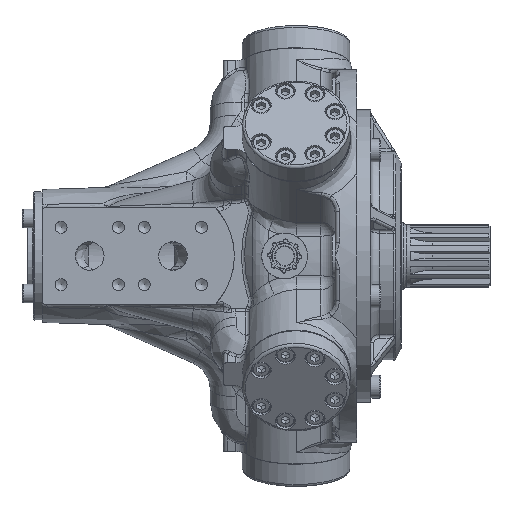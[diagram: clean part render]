
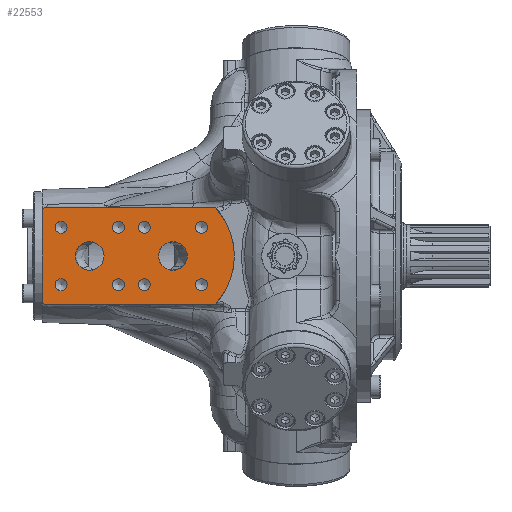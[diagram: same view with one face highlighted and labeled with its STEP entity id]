
A CAD part, front view. The second image highlights one B-rep face of the part: STEP entity #22553.
In plain terms, the highlighted planar face has unit normal (0, -1, 0).
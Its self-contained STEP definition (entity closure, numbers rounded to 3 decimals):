
#1105=FACE_BOUND('',#3309,.T.);
#1106=FACE_BOUND('',#3310,.T.);
#1107=FACE_BOUND('',#3311,.T.);
#1108=FACE_BOUND('',#3312,.T.);
#1109=FACE_BOUND('',#3313,.T.);
#1110=FACE_BOUND('',#3314,.T.);
#1111=FACE_BOUND('',#3315,.T.);
#1112=FACE_BOUND('',#3316,.T.);
#1113=FACE_BOUND('',#3317,.T.);
#1114=FACE_BOUND('',#3318,.T.);
#1250=PLANE('',#24583);
#1753=FACE_OUTER_BOUND('',#3308,.T.);
#3308=EDGE_LOOP('',(#15998,#15999,#16000,#16001,#16002,#16003));
#3309=EDGE_LOOP('',(#16004));
#3310=EDGE_LOOP('',(#16005));
#3311=EDGE_LOOP('',(#16006));
#3312=EDGE_LOOP('',(#16007));
#3313=EDGE_LOOP('',(#16008));
#3314=EDGE_LOOP('',(#16009));
#3315=EDGE_LOOP('',(#16010));
#3316=EDGE_LOOP('',(#16011));
#3317=EDGE_LOOP('',(#16012));
#3318=EDGE_LOOP('',(#16013));
#4900=CIRCLE('',#24551,4.188);
#4902=CIRCLE('',#24555,4.188);
#4904=CIRCLE('',#24559,4.188);
#4906=CIRCLE('',#24563,4.188);
#4908=CIRCLE('',#24567,4.188);
#4910=CIRCLE('',#24571,4.188);
#4912=CIRCLE('',#24575,4.188);
#4914=CIRCLE('',#24579,4.188);
#4915=CIRCLE('',#24581,50.);
#4917=CIRCLE('',#24584,2.998);
#4918=CIRCLE('',#24585,2.998);
#4919=CIRCLE('',#24586,10.);
#4920=CIRCLE('',#24587,10.);
#6326=LINE('',#36487,#7382);
#6327=LINE('',#36491,#7383);
#6328=LINE('',#36494,#7384);
#7382=VECTOR('',#27964,10.);
#7383=VECTOR('',#27967,10.);
#7384=VECTOR('',#27970,10.);
#9622=VERTEX_POINT('',#36380);
#9625=VERTEX_POINT('',#36389);
#9628=VERTEX_POINT('',#36398);
#9631=VERTEX_POINT('',#36407);
#9634=VERTEX_POINT('',#36416);
#9637=VERTEX_POINT('',#36425);
#9640=VERTEX_POINT('',#36434);
#9643=VERTEX_POINT('',#36443);
#9644=VERTEX_POINT('',#36447);
#9646=VERTEX_POINT('',#36453);
#9650=VERTEX_POINT('',#36486);
#9651=VERTEX_POINT('',#36488);
#9652=VERTEX_POINT('',#36490);
#9653=VERTEX_POINT('',#36492);
#9654=VERTEX_POINT('',#36495);
#9655=VERTEX_POINT('',#36497);
#11966=EDGE_CURVE('',#9622,#9622,#4900,.T.);
#11970=EDGE_CURVE('',#9625,#9625,#4902,.T.);
#11974=EDGE_CURVE('',#9628,#9628,#4904,.T.);
#11978=EDGE_CURVE('',#9631,#9631,#4906,.T.);
#11982=EDGE_CURVE('',#9634,#9634,#4908,.T.);
#11986=EDGE_CURVE('',#9637,#9637,#4910,.T.);
#11990=EDGE_CURVE('',#9640,#9640,#4912,.T.);
#11994=EDGE_CURVE('',#9643,#9643,#4914,.T.);
#11997=EDGE_CURVE('',#9646,#9644,#4915,.T.);
#12002=EDGE_CURVE('',#9650,#9644,#6326,.T.);
#12003=EDGE_CURVE('',#9651,#9650,#4917,.T.);
#12004=EDGE_CURVE('',#9652,#9651,#6327,.T.);
#12005=EDGE_CURVE('',#9653,#9652,#4918,.T.);
#12006=EDGE_CURVE('',#9646,#9653,#6328,.T.);
#12007=EDGE_CURVE('',#9654,#9654,#4919,.T.);
#12008=EDGE_CURVE('',#9655,#9655,#4920,.T.);
#15998=ORIENTED_EDGE('',*,*,#12002,.F.);
#15999=ORIENTED_EDGE('',*,*,#12003,.F.);
#16000=ORIENTED_EDGE('',*,*,#12004,.F.);
#16001=ORIENTED_EDGE('',*,*,#12005,.F.);
#16002=ORIENTED_EDGE('',*,*,#12006,.F.);
#16003=ORIENTED_EDGE('',*,*,#11997,.T.);
#16004=ORIENTED_EDGE('',*,*,#11966,.T.);
#16005=ORIENTED_EDGE('',*,*,#11970,.T.);
#16006=ORIENTED_EDGE('',*,*,#11974,.T.);
#16007=ORIENTED_EDGE('',*,*,#11978,.T.);
#16008=ORIENTED_EDGE('',*,*,#11982,.T.);
#16009=ORIENTED_EDGE('',*,*,#11986,.T.);
#16010=ORIENTED_EDGE('',*,*,#11990,.T.);
#16011=ORIENTED_EDGE('',*,*,#11994,.T.);
#16012=ORIENTED_EDGE('',*,*,#12007,.F.);
#16013=ORIENTED_EDGE('',*,*,#12008,.F.);
#22553=ADVANCED_FACE('',(#1753,#1105,#1106,#1107,#1108,#1109,#1110,#1111,
#1112,#1113,#1114),#1250,.F.);
#24551=AXIS2_PLACEMENT_3D('',#36381,#27883,#27884);
#24555=AXIS2_PLACEMENT_3D('',#36390,#27893,#27894);
#24559=AXIS2_PLACEMENT_3D('',#36399,#27903,#27904);
#24563=AXIS2_PLACEMENT_3D('',#36408,#27913,#27914);
#24567=AXIS2_PLACEMENT_3D('',#36417,#27923,#27924);
#24571=AXIS2_PLACEMENT_3D('',#36426,#27933,#27934);
#24575=AXIS2_PLACEMENT_3D('',#36435,#27943,#27944);
#24579=AXIS2_PLACEMENT_3D('',#36444,#27953,#27954);
#24581=AXIS2_PLACEMENT_3D('',#36454,#27958,#27959);
#24583=AXIS2_PLACEMENT_3D('',#36485,#27962,#27963);
#24584=AXIS2_PLACEMENT_3D('',#36489,#27965,#27966);
#24585=AXIS2_PLACEMENT_3D('',#36493,#27968,#27969);
#24586=AXIS2_PLACEMENT_3D('',#36496,#27971,#27972);
#24587=AXIS2_PLACEMENT_3D('',#36498,#27973,#27974);
#27883=DIRECTION('center_axis',(0.,1.,0.));
#27884=DIRECTION('ref_axis',(1.,0.,0.));
#27893=DIRECTION('center_axis',(0.,1.,0.));
#27894=DIRECTION('ref_axis',(1.,0.,0.));
#27903=DIRECTION('center_axis',(0.,1.,0.));
#27904=DIRECTION('ref_axis',(1.,0.,0.));
#27913=DIRECTION('center_axis',(0.,1.,0.));
#27914=DIRECTION('ref_axis',(1.,0.,0.));
#27923=DIRECTION('center_axis',(0.,1.,0.));
#27924=DIRECTION('ref_axis',(1.,0.,0.));
#27933=DIRECTION('center_axis',(0.,1.,0.));
#27934=DIRECTION('ref_axis',(1.,0.,0.));
#27943=DIRECTION('center_axis',(0.,1.,0.));
#27944=DIRECTION('ref_axis',(1.,0.,0.));
#27953=DIRECTION('center_axis',(0.,1.,0.));
#27954=DIRECTION('ref_axis',(1.,0.,0.));
#27958=DIRECTION('center_axis',(0.,-1.,0.));
#27959=DIRECTION('ref_axis',(-0.733,0.,-0.68));
#27962=DIRECTION('center_axis',(0.,1.,0.));
#27963=DIRECTION('ref_axis',(0.,0.,1.));
#27964=DIRECTION('',(1.,0.,0.));
#27965=DIRECTION('center_axis',(0.,1.,0.));
#27966=DIRECTION('ref_axis',(0.,0.,-1.));
#27967=DIRECTION('',(0.,0.,1.));
#27968=DIRECTION('center_axis',(0.,1.,0.));
#27969=DIRECTION('ref_axis',(0.,0.,-1.));
#27970=DIRECTION('',(-1.,0.,0.));
#27971=DIRECTION('center_axis',(0.,-1.,0.));
#27972=DIRECTION('ref_axis',(-1.,0.,0.));
#27973=DIRECTION('center_axis',(0.,-1.,0.));
#27974=DIRECTION('ref_axis',(-1.,0.,0.));
#36380=CARTESIAN_POINT('',(-110.188,-80.1,-20.));
#36381=CARTESIAN_POINT('Origin',(-106.,-80.1,-20.));
#36389=CARTESIAN_POINT('',(-70.188,-80.1,-20.));
#36390=CARTESIAN_POINT('Origin',(-66.,-80.1,-20.));
#36398=CARTESIAN_POINT('',(-70.188,-80.1,20.));
#36399=CARTESIAN_POINT('Origin',(-66.,-80.1,20.));
#36407=CARTESIAN_POINT('',(-110.188,-80.1,20.));
#36408=CARTESIAN_POINT('Origin',(-106.,-80.1,20.));
#36416=CARTESIAN_POINT('',(-168.188,-80.1,-20.));
#36417=CARTESIAN_POINT('Origin',(-164.,-80.1,-20.));
#36425=CARTESIAN_POINT('',(-128.188,-80.1,-20.));
#36426=CARTESIAN_POINT('Origin',(-124.,-80.1,-20.));
#36434=CARTESIAN_POINT('',(-128.188,-80.1,20.));
#36435=CARTESIAN_POINT('Origin',(-124.,-80.1,20.));
#36443=CARTESIAN_POINT('',(-168.188,-80.1,20.));
#36444=CARTESIAN_POINT('Origin',(-164.,-80.1,20.));
#36447=CARTESIAN_POINT('',(-56.498,-80.1,33.998));
#36453=CARTESIAN_POINT('',(-56.498,-80.1,-33.998));
#36454=CARTESIAN_POINT('Origin',(-93.161,-80.1,0.));
#36485=CARTESIAN_POINT('Origin',(-127.336,-80.1,0.));
#36486=CARTESIAN_POINT('',(-174.,-80.1,33.998));
#36487=CARTESIAN_POINT('',(-63.525,-80.1,33.998));
#36488=CARTESIAN_POINT('',(-176.998,-80.1,31.));
#36489=CARTESIAN_POINT('Origin',(-174.,-80.1,31.));
#36490=CARTESIAN_POINT('',(-176.998,-80.1,-31.));
#36491=CARTESIAN_POINT('',(-176.998,-80.1,15.5));
#36492=CARTESIAN_POINT('',(-174.,-80.1,-33.998));
#36493=CARTESIAN_POINT('Origin',(-174.,-80.1,-31.));
#36494=CARTESIAN_POINT('',(-137.525,-80.1,-33.998));
#36495=CARTESIAN_POINT('',(-134.,-80.1,0.));
#36496=CARTESIAN_POINT('Origin',(-144.,-80.1,0.));
#36497=CARTESIAN_POINT('',(-76.,-80.1,0.));
#36498=CARTESIAN_POINT('Origin',(-86.,-80.1,0.));
